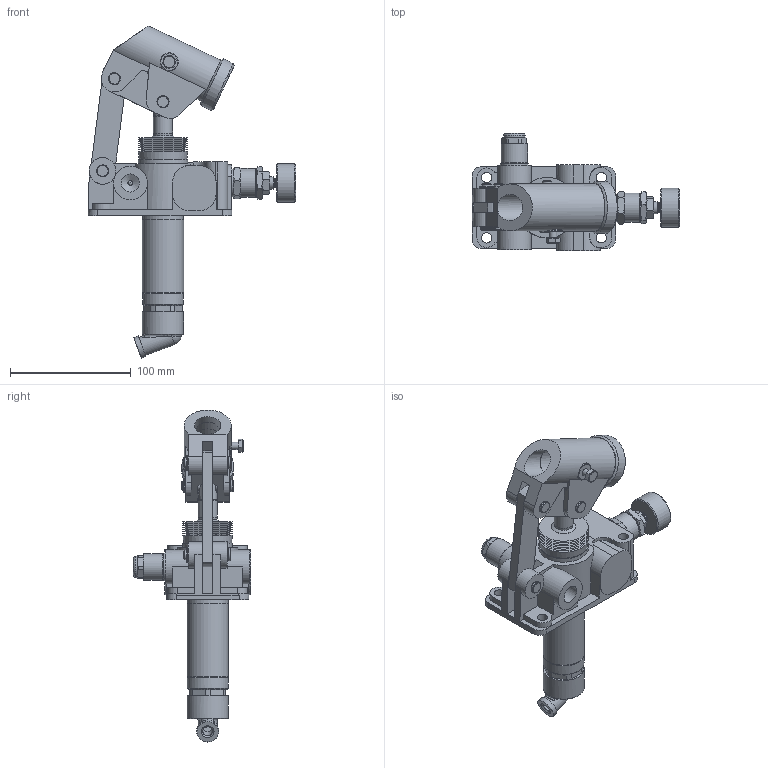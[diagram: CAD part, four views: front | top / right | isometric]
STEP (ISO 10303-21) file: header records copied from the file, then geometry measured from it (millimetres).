
FILE_DESCRIPTION(/* description */ ('Unknown'),/* implementation_level */ '2;1');
FILE_NAME(/* name */ 'HPT-RVS',/* time_stamp */ '2024-11-28T11:31:39+01:00',/* author */ ('Unknown'),/* organization */ ('Unknown'),/* preprocessor_version */ 'ST-DEVELOPER v19.4',/* originating_system */ 'Solid Edge',/* authorisation */ 'Unknown');
FILE_SCHEMA (('AUTOMOTIVE_DESIGN { 1 0 10303 214 3 1 1 }','AUTOMOTIVE_DESIGN {1 0 10303 214 3 1 1}'));
Length unit declared in the file: millimetre
Products named in the file (1): HPT-RVS
Bounding box: 172.05 x 97 x 274.93 mm (x, y, z)
Volume: 511836.3 mm3; surface area: 142773.1 mm2
Topology: 9 solids, 9 shells, 2259 faces, 6198 edges, 4002 vertices
Faces by surface type: plane 1835, cylinder 271, cone 99, torus 33, bspline 16, sphere 5
Full cylindrical faces by diameter (mm): 1.8 x2, 2 x2, 3 x2, 4 x5, 5 x1, 5.1 x1, 5.15 x1, 5.994 x5, 7 x1, 7.792 x6, 7.8 x1, 7.95 x1, 8 x6, 8.092 x6, 8.1 x1, 8.376 x2, 8.5 x5, 9.99 x3, 10 x2, 10.5 x1, 11 x3, 12.2 x2, 13 x1, 14.5 x1, 14.9 x3, 14.95 x6, 15.3 x1, 15.8 x1, 16 x1, 17 x2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
Entity records: 86747 total; most frequent: CARTESIAN_POINT 15055, ORIENTED_EDGE 11674, DIRECTION 11134, EDGE_CURVE 5837, LINE 4748, VECTOR 4748, VERTEX_POINT 3876, AXIS2_PLACEMENT_3D 3193
